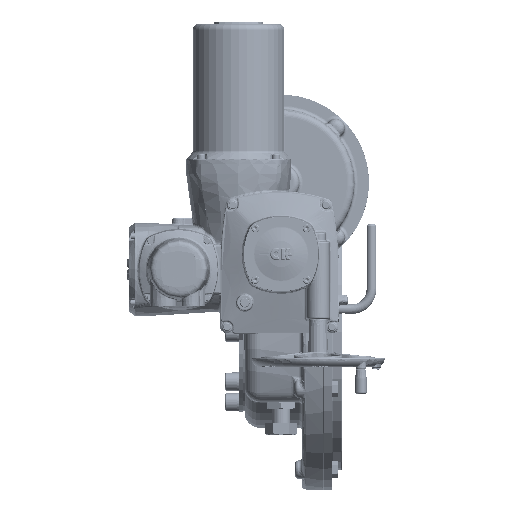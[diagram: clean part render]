
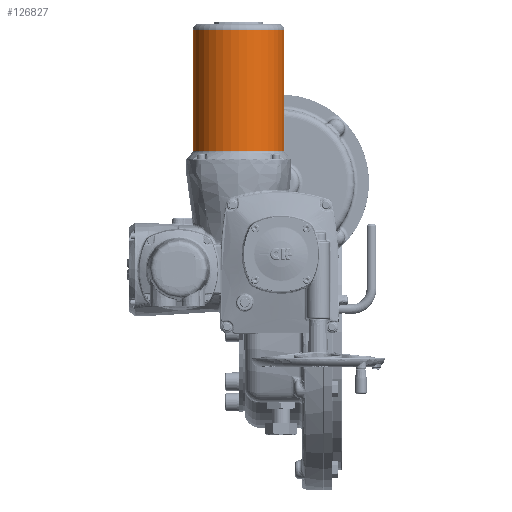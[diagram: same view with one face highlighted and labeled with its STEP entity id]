
A CAD part, top view. The second image highlights one B-rep face of the part: STEP entity #126827.
In plain terms, the highlighted cylindrical face has radius 75.5 mm (diameter 151 mm), a full revolution.
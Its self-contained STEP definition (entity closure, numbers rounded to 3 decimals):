
#11012=CYLINDRICAL_SURFACE('',#132990,75.5);
#12946=CIRCLE('',#132987,75.5);
#12947=CIRCLE('',#132989,75.5);
#27386=ORIENTED_EDGE('',*,*,#47146,.T.);
#27387=ORIENTED_EDGE('',*,*,#47147,.T.);
#27388=ORIENTED_EDGE('',*,*,#47145,.T.);
#47145=EDGE_CURVE('',#57862,#57862,#12946,.T.);
#47146=EDGE_CURVE('',#57863,#57863,#12947,.T.);
#47147=EDGE_CURVE('',#57864,#57864,#65388,.T.);
#57862=VERTEX_POINT('',#224039);
#57863=VERTEX_POINT('',#224042);
#57864=VERTEX_POINT('',#224080);
#65388=B_SPLINE_CURVE_WITH_KNOTS('',3,(#224044,#224045,#224046,#224047,
#224048,#224049,#224050,#224051,#224052,#224053,#224054,#224055,#224056,
#224057,#224058,#224059,#224060,#224061,#224062,#224063,#224064,#224065,
#224066,#224067,#224068,#224069,#224070,#224071,#224072,#224073,#224074,
#224075,#224076,#224077,#224078,#224079),.UNSPECIFIED.,.T.,.F.,(1,1,1,1,
1,1,1,1,1,1,1,1,1,1,1,1,1,1,1,1,1,1,1,1,1,1,1,1,1,1,1,1,1,1,1,1,1,1,1,1),
(-0.095,-0.064,-0.033,0.,0.03,
0.061,0.092,0.123,0.155,0.186,
0.217,0.248,0.28,0.311,
0.342,0.373,0.405,0.436,
0.467,0.498,0.53,0.561,
0.592,0.623,0.655,0.686,
0.717,0.748,0.78,0.796,
0.812,0.842,0.873,0.905,
0.936,0.967,1.,1.03,1.061,1.092),
 .UNSPECIFIED.);
#71413=EDGE_LOOP('',(#27386));
#71414=EDGE_LOOP('',(#27387));
#71415=EDGE_LOOP('',(#27388));
#78064=FACE_BOUND('',#71413,.T.);
#78065=FACE_BOUND('',#71414,.T.);
#78066=FACE_BOUND('',#71415,.T.);
#126827=ADVANCED_FACE('',(#78064,#78065,#78066),#11012,.T.);
#132987=AXIS2_PLACEMENT_3D('',#224038,#144953,#144954);
#132989=AXIS2_PLACEMENT_3D('',#224041,#144957,#144958);
#132990=AXIS2_PLACEMENT_3D('',#224043,#144959,#144960);
#144953=DIRECTION('',(0.,-1.,0.));
#144954=DIRECTION('',(1.,0.,0.));
#144957=DIRECTION('',(0.,1.,0.));
#144958=DIRECTION('',(-1.,0.,0.));
#144959=DIRECTION('',(0.,1.,0.));
#144960=DIRECTION('',(-1.,0.,0.));
#224038=CARTESIAN_POINT('',(-70.,370.,77.));
#224039=CARTESIAN_POINT('',(5.5,370.,77.));
#224041=CARTESIAN_POINT('',(-70.,170.646,77.));
#224042=CARTESIAN_POINT('',(-145.5,170.646,77.));
#224043=CARTESIAN_POINT('',(-70.,102.5,77.));
#224044=CARTESIAN_POINT('',(-53.994,256.518,3.214));
#224045=CARTESIAN_POINT('',(-53.305,259.874,3.369));
#224046=CARTESIAN_POINT('',(-53.238,263.296,3.384));
#224047=CARTESIAN_POINT('',(-53.752,266.594,3.268));
#224048=CARTESIAN_POINT('',(-54.88,269.799,3.025));
#224049=CARTESIAN_POINT('',(-56.574,272.753,2.695));
#224050=CARTESIAN_POINT('',(-58.775,275.301,2.325));
#224051=CARTESIAN_POINT('',(-61.47,277.397,1.965));
#224052=CARTESIAN_POINT('',(-64.497,278.884,1.678));
#224053=CARTESIAN_POINT('',(-67.817,279.719,1.506));
#224054=CARTESIAN_POINT('',(-71.213,279.821,1.484));
#224055=CARTESIAN_POINT('',(-74.564,279.2,1.614));
#224056=CARTESIAN_POINT('',(-77.711,277.877,1.875));
#224057=CARTESIAN_POINT('',(-80.491,275.961,2.217));
#224058=CARTESIAN_POINT('',(-82.853,273.517,2.592));
#224059=CARTESIAN_POINT('',(-84.698,270.675,2.939));
#224060=CARTESIAN_POINT('',(-85.985,267.526,3.209));
#224061=CARTESIAN_POINT('',(-86.688,264.179,3.367));
#224062=CARTESIAN_POINT('',(-86.773,260.778,3.387));
#224063=CARTESIAN_POINT('',(-86.249,257.412,3.268));
#224064=CARTESIAN_POINT('',(-85.127,254.208,3.026));
#224065=CARTESIAN_POINT('',(-83.438,251.262,2.697));
#224066=CARTESIAN_POINT('',(-81.225,248.701,2.325));
#224067=CARTESIAN_POINT('',(-78.55,246.614,1.967));
#224068=CARTESIAN_POINT('',(-75.497,245.113,1.678));
#224069=CARTESIAN_POINT('',(-72.19,244.283,1.507));
#224070=CARTESIAN_POINT('',(-69.333,244.192,1.488));
#224071=CARTESIAN_POINT('',(-67.054,244.499,1.551));
#224072=CARTESIAN_POINT('',(-64.849,245.045,1.663));
#224073=CARTESIAN_POINT('',(-62.283,246.129,1.876));
#224074=CARTESIAN_POINT('',(-59.502,248.044,2.218));
#224075=CARTESIAN_POINT('',(-57.153,250.476,2.591));
#224076=CARTESIAN_POINT('',(-55.306,253.318,2.938));
#224077=CARTESIAN_POINT('',(-53.994,256.518,3.214));
#224078=CARTESIAN_POINT('',(-53.305,259.874,3.369));
#224079=CARTESIAN_POINT('',(-53.238,263.296,3.384));
#224080=CARTESIAN_POINT('',(-53.396,260.002,3.348));
